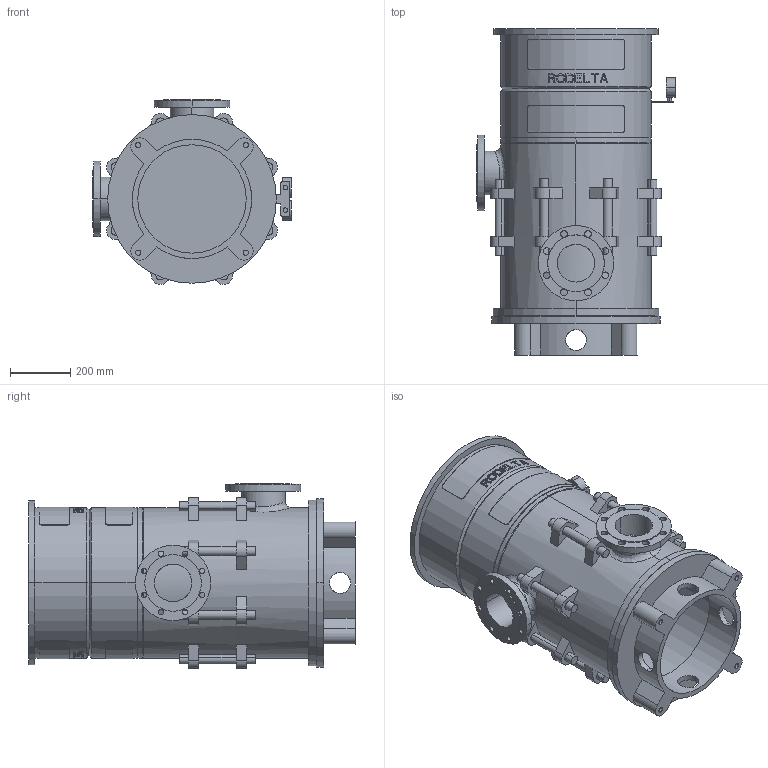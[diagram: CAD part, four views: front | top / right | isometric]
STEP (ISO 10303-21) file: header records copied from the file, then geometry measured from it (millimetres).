
FILE_DESCRIPTION((''),'2;1');
FILE_NAME('LS5_2TR_0GR_ABOVE_30KW','2023-08-08T',('Lyritlocal'),(''),'PRO/ENGINEER BY PARAMETRIC TECHNOLOGY CORPORATION, 2016360','PRO/ENGINEER BY PARAMETRIC TECHNOLOGY CORPORATION, 2016360','');
FILE_SCHEMA(('CONFIG_CONTROL_DESIGN'));
Length unit declared in the file: millimetre
Products named in the file (1): LS5_2TR_0GR_ABOVE_30KW
Bounding box: 660 x 1084 x 614.04 mm (x, y, z)
Volume: 36327206.7 mm3; surface area: 5025285.6 mm2
Topology: 3 solids, 7 shells, 672 faces, 1749 edges, 1158 vertices
Faces by surface type: plane 414, cylinder 242, cone 12, bspline 4
Entity records: 21953 total; most frequent: CARTESIAN_POINT 5501, ORIENTED_EDGE 3482, DIRECTION 3271, EDGE_CURVE 1749, AXIS2_PLACEMENT_3D 1241, VERTEX_POINT 1158, EDGE_LOOP 807, VECTOR 789
